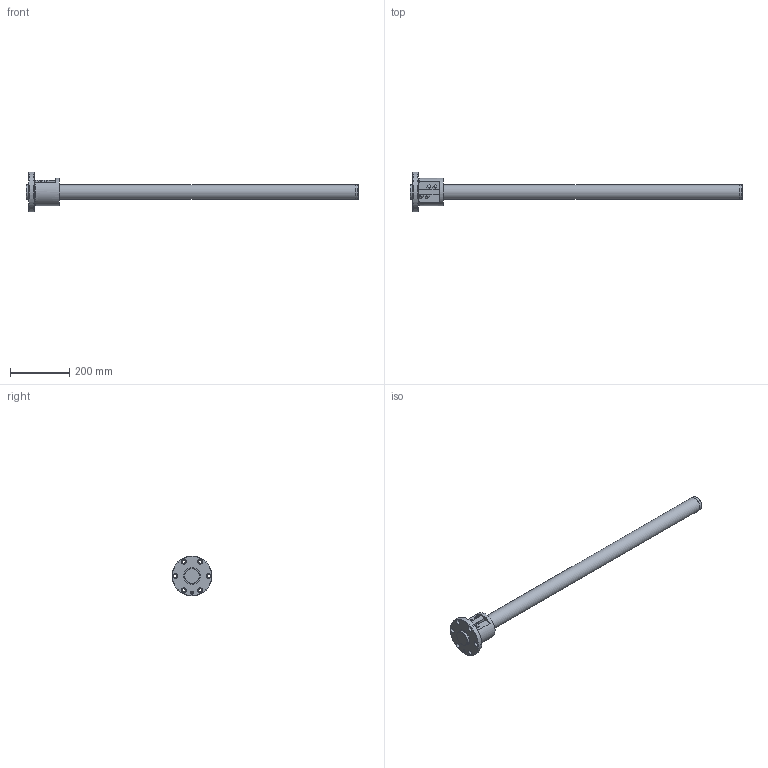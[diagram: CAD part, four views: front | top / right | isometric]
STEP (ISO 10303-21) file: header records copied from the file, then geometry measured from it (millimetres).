
FILE_DESCRIPTION( ( 'STEP AP203' ), ' ' );
FILE_NAME( 'p:/temp/worker_19/4028_1992/app_51_12018011815545763046011818fa3fd_000000_00_00_000000/format_0/BIF5010-5RRG0+1123LC0_10000.stp', '2018-01-18T14:54:58', ( '' ), ( '' ), ' ', 'PARTsolutions', ' ' );
FILE_SCHEMA( ( 'CONFIG_CONTROL_DESIGN' ) );
Length unit declared in the file: millimetre
Products named in the file (3): BIF5010-5RRG0+1123LC0_10000; _BIF 5010-5RR1000500 Shaft; _BIF 5010-5RR Nut
Assembly tree (2 placements, depth 2):
  BIF5010-5RRG0+1123LC0_10000
    _BIF 5010-5RR1000500 Shaft
    _BIF 5010-5RR Nut
Bounding box: 1123 x 135 x 135 mm (x, y, z)
Volume: 2772490.2 mm3; surface area: 262292.1 mm2
Topology: 2 solids, 2 shells, 82 faces, 178 edges, 113 vertices
Faces by surface type: cylinder 39, plane 31, cone 8, torus 4
Full cylindrical faces by diameter (mm): 6.75 x2, 8.566 x1, 8.9 x4, 11 x6, 17.5 x6, 49.5 x2, 50 x4, 55.8 x2, 93 x1, 135 x1
Entity records: 2576 total; most frequent: CARTESIAN_POINT 785, DIRECTION 376, ORIENTED_EDGE 262, AXIS2_PLACEMENT_3D 172, EDGE_LOOP 156, EDGE_CURVE 131, FACE_OUTER_BOUND 111, VERTEX_POINT 103
